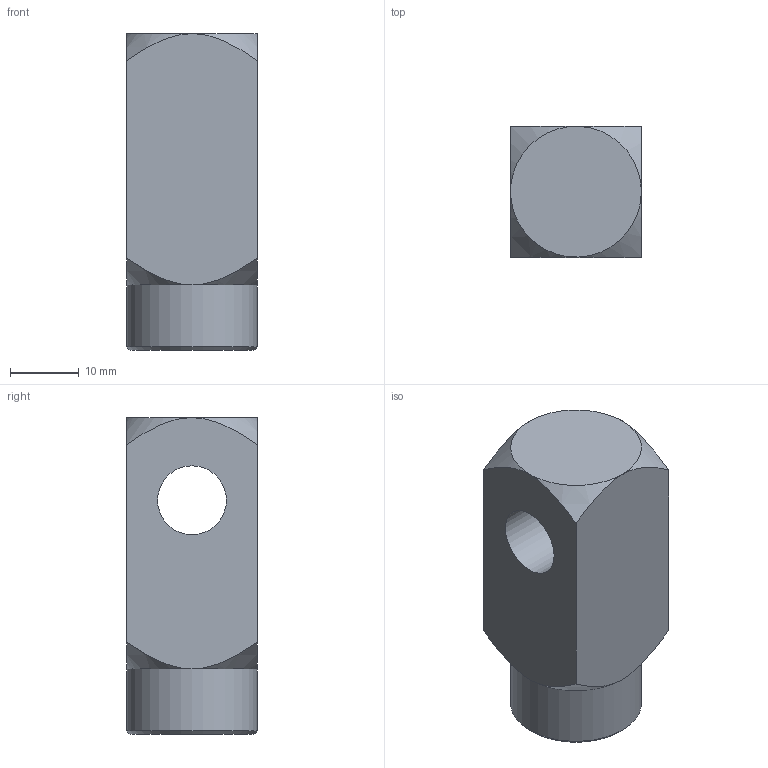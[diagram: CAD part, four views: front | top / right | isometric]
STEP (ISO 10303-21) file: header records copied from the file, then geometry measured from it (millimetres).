
FILE_DESCRIPTION(/* description */ ('Unknown'),/* implementation_level */ '2;1');
FILE_NAME(/* name */ 'WK25_WK30_I',/* time_stamp */ '2026-07-17T16:39:53+08:00',/* author */ ('Unknown'),/* organization */ ('Unknown'),/* preprocessor_version */ 'ST-DEVELOPER v16.7',/* originating_system */ 'DEX',/* authorisation */ $);
FILE_SCHEMA (('CONFIG_CONTROL_DESIGN'));
Length unit declared in the file: millimetre
Products named in the file (1): WK25_WK30_I
Bounding box: 19 x 19 x 46 mm (x, y, z)
Volume: 12809.1 mm3; surface area: 4950.4 mm2
Topology: 1 solids, 1 shells, 16 faces, 37 edges, 23 vertices
Faces by surface type: cone 7, plane 6, cylinder 3
Full cylindrical faces by diameter (mm): 8.75 x1, 10 x1, 19 x1
Entity records: 578 total; most frequent: CARTESIAN_POINT 136, DIRECTION 60, ORIENTED_EDGE 54, AXIS2_PLACEMENT_3D 28, EDGE_CURVE 27, FACE_BOUND 25, EDGE_LOOP 24, VERTEX_POINT 20
